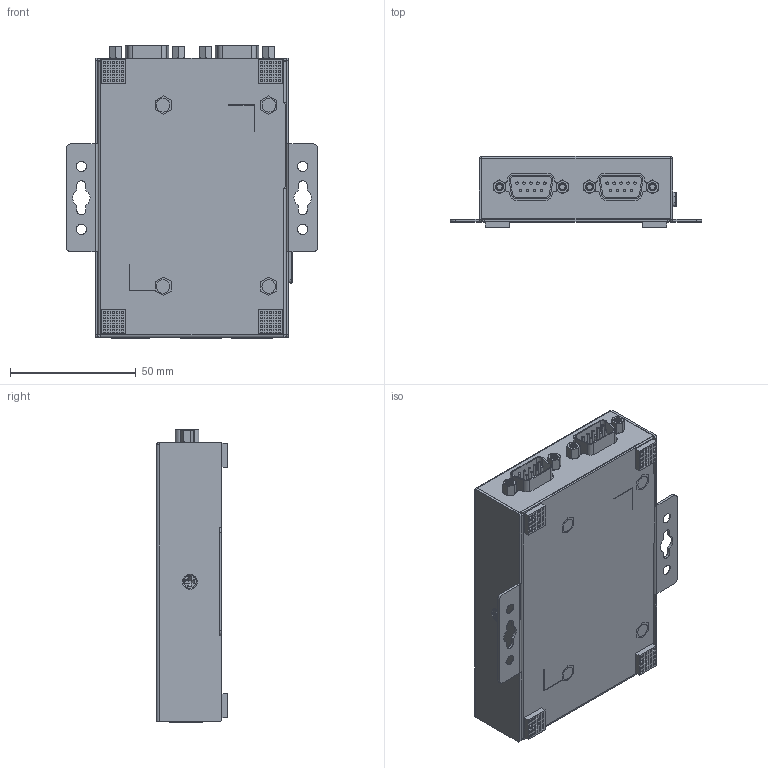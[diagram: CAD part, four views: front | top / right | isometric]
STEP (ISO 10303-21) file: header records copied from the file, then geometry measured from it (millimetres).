
FILE_DESCRIPTION((''),'2;1');
FILE_NAME('PRT0001','2014-05-22T',('Albert_Lin'),(''),'PRO/ENGINEER BY PARAMETRIC TECHNOLOGY CORPORATION, 2013230','PRO/ENGINEER BY PARAMETRIC TECHNOLOGY CORPORATION, 2013230','');
FILE_SCHEMA(('CONFIG_CONTROL_DESIGN'));
Products named in the file (1): PRT0001
Bounding box: 100 x 28.2 x 116.15 mm (x, y, z)
Volume: 52077.1 mm3; surface area: 141890.2 mm2
Topology: 19 solids, 42 shells, 2395 faces, 5982 edges, 3883 vertices
Faces by surface type: plane 1433, cylinder 710, torus 102, bspline 82, cone 50, sphere 18
Entity records: 118294 total; most frequent: CARTESIAN_POINT 31604, ORIENTED_EDGE 11896, DIRECTION 11290, PRESENTATION_STYLE_ASSIGNMENT 7646, STYLED_ITEM 5998, CURVE_STYLE 5956, EDGE_CURVE 5956, VECTOR 3902
